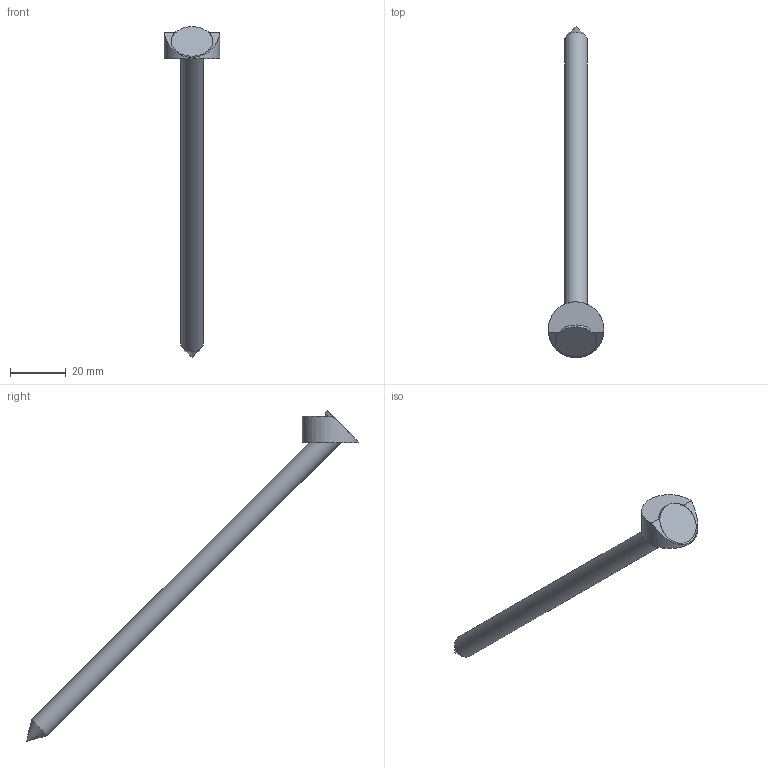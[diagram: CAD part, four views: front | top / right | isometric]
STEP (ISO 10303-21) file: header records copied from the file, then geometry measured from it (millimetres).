
FILE_DESCRIPTION(/* description */ ('Unknown'),/* implementation_level */ '2;1');
FILE_NAME(/* name */ 'T-Joint 20_SK 8x160',/* time_stamp */ '2020-07-13T09:55:15+02:00',/* author */ ('Unknown'),/* organization */ ('Unknown'),/* preprocessor_version */ 'ST-DEVELOPER v16.7',/* originating_system */ 'DEX',/* authorisation */ $);
FILE_SCHEMA (('AUTOMOTIVE_DESIGN {1 0 10303 214 3 1 1}'));
Length unit declared in the file: millimetre
Products named in the file (3): T-Joint 20_SK 8x160; Rundzylinderscheibe_8er_Schraube_45_V3; SK_Schraube_8x160
Assembly tree (2 placements, depth 2):
  T-Joint 20_SK 8x160
    Rundzylinderscheibe_8er_Schraube_45_V3
    SK_Schraube_8x160
Bounding box: 20 x 118.84 x 118.44 mm (x, y, z)
Volume: 9973.5 mm3; surface area: 5403.7 mm2
Topology: 2 solids, 2 shells, 11 faces, 24 edges, 15 vertices
Faces by surface type: plane 4, cylinder 4, cone 3
Full cylindrical faces by diameter (mm): 8 x2, 15 x1, 20 x1
Entity records: 321 total; most frequent: DIRECTION 50, CARTESIAN_POINT 45, ORIENTED_EDGE 26, AXIS2_PLACEMENT_3D 24, FACE_BOUND 19, EDGE_LOOP 18, EDGE_CURVE 13, VERTEX_POINT 12
